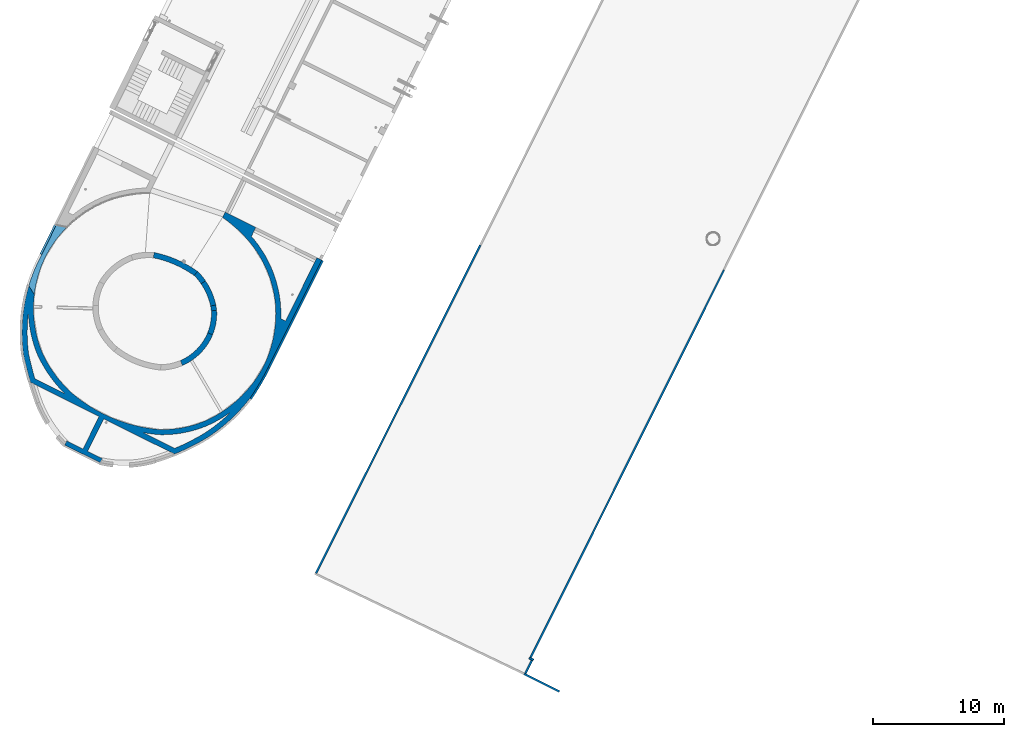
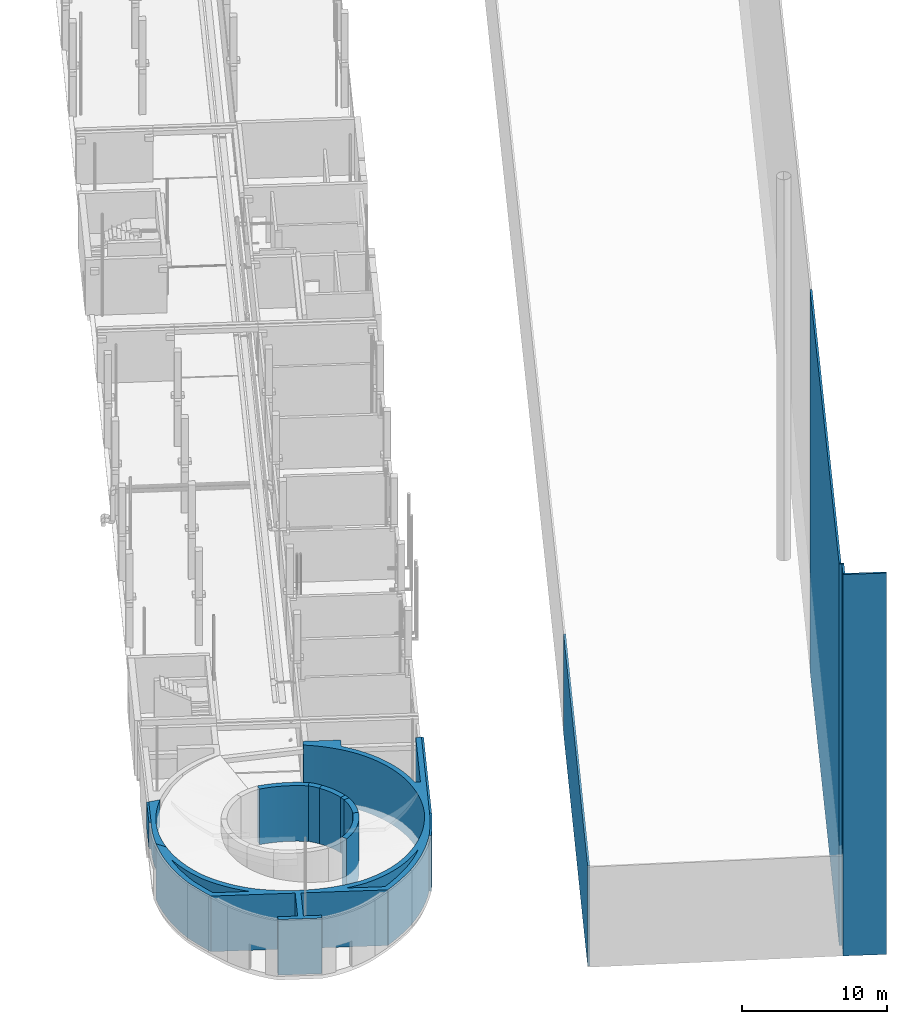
# One storey, part 7 of 91: 16 walls, 2 openings.
"""IFC2X3 building model written with IfcOpenShell, lengths in metres."""

from ifc_helpers import new_model, entity, si_unit, converted_unit, derived_unit, direction, frame, frame_2d, origin, place, context, subcontext, project, spatial, polyline, circle_curve, parameter, trimmed, segment, composite_curve, rectangle, outline, extrude, clip, bounded_halfspace, material, layer, layer_set, layer_usage, type_object, element, save


model = new_model("IFC2X3")

# Units and contexts
model_context = context("Model", 3, precision=1e-05, world=origin(), true_north=direction((0.894925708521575, 0.446215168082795)))
context_of_model = context(None, 3, precision=1e-05, world=origin(), true_north=direction((0.894925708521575, 0.446215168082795)))
body_context = subcontext(model_context, "Body", "Model", "MODEL_VIEW")
ifc_project = project(units=[si_unit("LENGTHUNIT", "METRE"), si_unit("AREAUNIT", "SQUARE_METRE"), si_unit("VOLUMEUNIT", "CUBIC_METRE"), converted_unit("PLANEANGLEUNIT", "DEGREE", entity("IfcRatioMeasure", 0.0174532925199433), si_unit("PLANEANGLEUNIT", "RADIAN"), dimensions=[0, 0, 0, 0, 0, 0, 0]), si_unit("MASSUNIT", "GRAM", prefix="KILO"), si_unit("TIMEUNIT", "SECOND"), si_unit("FREQUENCYUNIT", "HERTZ"), si_unit("THERMODYNAMICTEMPERATUREUNIT", "DEGREE_CELSIUS"), derived_unit("THERMALTRANSMITTANCEUNIT", [(si_unit("MASSUNIT", "GRAM", prefix="KILO"), 1), (si_unit("THERMODYNAMICTEMPERATUREUNIT", "KELVIN"), -1), (si_unit("TIMEUNIT", "SECOND"), -3)]), derived_unit("VOLUMETRICFLOWRATEUNIT", [(si_unit("LENGTHUNIT", "METRE"), 3), (si_unit("TIMEUNIT", "SECOND"), -1)]), si_unit("ELECTRICCURRENTUNIT", "AMPERE"), si_unit("ELECTRICVOLTAGEUNIT", "VOLT"), si_unit("POWERUNIT", "WATT"), si_unit("FORCEUNIT", "NEWTON", prefix="KILO"), si_unit("ILLUMINANCEUNIT", "LUX"), si_unit("LUMINOUSFLUXUNIT", "LUMEN"), si_unit("LUMINOUSINTENSITYUNIT", "CANDELA"), si_unit("PRESSUREUNIT", "PASCAL")], contexts=[model_context, context_of_model])

# Site, building, storey
site_placement = place(None, frame((218.228324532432, 584.720189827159, 0.0), z_axis=(0.0, 0.0, 1.0), x_axis=(0.446215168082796, 0.894925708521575, 0.0)))
site = spatial("IfcSite", under=ifc_project, at=site_placement, Name="Default", CompositionType="ELEMENT")
building_placement = place(site_placement, origin())
building = spatial("IfcBuilding", under=site, at=building_placement, CompositionType="ELEMENT")
storey_placement = place(building_placement, origin())
storey = spatial("IfcBuildingStorey", under=building, at=storey_placement, Name="0 - Piano Terra", CompositionType="ELEMENT", Elevation=0.0)

# Walls
ifc_material_1 = material(Name="Intonaco - Bianco")
ifc_layer_1 = layer(ifc_material_1, 0.01)
ifc_material_2 = material(Name="Default - Calcestruzzo")
ifc_layer_2 = layer(ifc_material_2, 0.4)
ifc_layer_set_1 = layer_set([ifc_layer_1, ifc_layer_2], Name="Muro di base:Setto CA intonacato int - 41 cm")
ifc_layer_usage_1 = layer_usage(ifc_layer_set_1, "AXIS2", "POSITIVE", -0.205)
wall_type_1 = type_object("IfcWallType", Name="Muro di base:Setto CA intonacato int - 41 cm", PredefinedType="STANDARD", material=ifc_layer_set_1)
wall_1_placement = place(storey_placement, frame((-69.0955108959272, -1.58090963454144, 0.0), z_axis=(0.0, 0.0, 1.0), x_axis=(0.987965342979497, -0.154675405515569, 0.0)))
element("IfcWallStandardCase", 1, at=wall_1_placement, inside=storey, type_object=wall_type_1, material=ifc_layer_usage_1, Name="Muro di base:Setto CA intonacato int - 41 cm", ObjectType="Muro di base:Setto CA intonacato int - 41 cm", context=body_context, shape_type="SweptSolid", body=[
    extrude(outline(composite_curve([segment(trimmed(circle_curve(frame_2d((-7.83321910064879, -3.45390609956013), x_axis=(1.0, 0.0)), 8.7658871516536), [parameter(0.0480917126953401)], [parameter(23.7941509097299)], True, "PARAMETER"), True, "CONTINUOUS"), segment(polyline([(0.187575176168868, 0.0827076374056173), (-0.178182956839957, -0.10408942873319)]), True, "CONTINUOUS"), segment(trimmed(circle_curve(frame_2d((-7.83321910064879, -3.45390609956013), x_axis=(1.0, 0.0)), 8.3558871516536), [parameter(0.232952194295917)], [parameter(23.6340161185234)], True, "PARAMETER"), False, "CONTINUOUS"), segment(polyline([(0.522598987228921, -3.41993297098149), (0.932664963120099, -3.4465483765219)]), True, "CONTINUOUS")], self_intersect=False)), origin(), (0.0, 0.0, 1.0), 4.69),
])
ifc_layer_usage_2 = layer_usage(ifc_layer_set_1, "AXIS2", "POSITIVE", -0.205)
wall_2_placement = place(storey_placement, frame((-69.2599548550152, -5.88475513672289, 0.0), z_axis=(0.0, 0.0, 1.0), x_axis=(0.621195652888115, -0.78365551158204, 0.0)))
element("IfcWallStandardCase", 2, at=wall_2_placement, inside=storey, type_object=wall_type_1, material=ifc_layer_usage_2, Name="Muro di base:Setto CA intonacato int - 41 cm", ObjectType="Muro di base:Setto CA intonacato int - 41 cm", context=body_context, shape_type="SweptSolid", body=[
    extrude(outline(composite_curve([segment(trimmed(circle_curve(frame_2d((-4.51230855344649, -1.88864638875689), x_axis=(1.0, 0.0)), 5.09661667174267), [parameter(359.999999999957)], [parameter(22.6184181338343)], True, "PARAMETER"), True, "CONTINUOUS"), segment(polyline([(0.192310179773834, 0.0714719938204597), (-0.189103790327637, -0.0791502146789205)]), True, "CONTINUOUS"), segment(trimmed(circle_curve(frame_2d((-4.51230855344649, -1.88864638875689), x_axis=(1.0, 0.0)), 4.68661667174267), [parameter(0.0199811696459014)], [parameter(22.711960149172)], True, "PARAMETER"), False, "CONTINUOUS"), segment(polyline([(0.174307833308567, -1.88701199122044), (0.584308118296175, -1.88864638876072)]), True, "CONTINUOUS")], self_intersect=False)), origin(), (0.0, 0.0, 1.0), 4.69),
])
ifc_layer_usage_3 = layer_usage(ifc_layer_set_1, "AXIS2", "POSITIVE", -0.205)
wall_3_placement = place(storey_placement, frame((-68.9039863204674, -5.07290830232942, 0.0), z_axis=(0.0, 0.0, 1.0), x_axis=(0.856291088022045, -0.516493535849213, 0.0)))
element("IfcWallStandardCase", 3, at=wall_3_placement, inside=storey, type_object=wall_type_1, material=ifc_layer_usage_3, Name="Muro di base:Setto CA intonacato int - 41 cm", ObjectType="Muro di base:Setto CA intonacato int - 41 cm", context=body_context, shape_type="SweptSolid", body=[
    extrude(outline(composite_curve([segment(trimmed(circle_curve(frame_2d((-3.31517749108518, -0.879432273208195), x_axis=(1.0, 0.0)), 3.63484007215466), [parameter(6.41199823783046e-12)], [parameter(14.8569253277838)], True, "PARAMETER"), True, "CONTINUOUS"), segment(polyline([(0.198146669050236, 0.0525632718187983), (-0.191579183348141, -0.077729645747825)]), True, "CONTINUOUS"), segment(trimmed(circle_curve(frame_2d((-3.31517749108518, -0.879432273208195), x_axis=(1.0, 0.0)), 3.22484007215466), [parameter(359.86646942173)], [parameter(14.3948183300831)], True, "PARAMETER"), False, "CONTINUOUS"), segment(polyline([(-0.0903461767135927, -0.886947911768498), (0.319662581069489, -0.87943227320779)]), True, "CONTINUOUS")], self_intersect=False)), origin(), (0.0, 0.0, 1.0), 4.69),
])
ifc_layer_usage_4 = layer_usage(ifc_layer_set_1, "AXIS2", "POSITIVE", -0.205)
wall_4_placement = place(storey_placement, frame((-70.5030947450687, -7.35421167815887, 0.0), z_axis=(0.0, 0.0, 1.0), x_axis=(0.546021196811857, -0.837771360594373, 0.0)))
element("IfcWallStandardCase", 4, at=wall_4_placement, inside=storey, type_object=wall_type_1, material=ifc_layer_usage_4, Name="Muro di base:Setto CA intonacato int - 41 cm", ObjectType="Muro di base:Setto CA intonacato int - 41 cm", context=body_context, shape_type="SweptSolid", body=[
    extrude(outline(composite_curve([segment(trimmed(circle_curve(frame_2d((-4.6797065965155, -0.397294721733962), x_axis=(1.0, 0.0)), 4.90154095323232), [parameter(359.999999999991)], [parameter(4.85262404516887)], True, "PARAMETER"), True, "CONTINUOUS"), segment(polyline([(0.204265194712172, 0.0173415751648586), (-0.20412747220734, -0.0189673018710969)]), True, "CONTINUOUS"), segment(trimmed(circle_curve(frame_2d((-4.6797065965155, -0.397294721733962), x_axis=(1.0, 0.0)), 4.49154095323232), [parameter(0.151241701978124)], [parameter(4.83181138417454)], True, "PARAMETER"), False, "CONTINUOUS"), segment(polyline([(-0.188181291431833, -0.385438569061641), (0.221834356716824, -0.397294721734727)]), True, "CONTINUOUS")], self_intersect=False)), origin(), (0.0, 0.0, 1.0), 4.69),
])
ifc_layer_usage_5 = layer_usage(ifc_layer_set_1, "AXIS2", "POSITIVE", -0.205)
wall_5_placement = place(storey_placement, frame((-70.816668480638, -7.57908508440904, 0.0), z_axis=(0.0, 0.0, 1.0), x_axis=(0.075941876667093, -0.997112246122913, 0.0)))
element("IfcWallStandardCase", 5, at=wall_5_placement, inside=storey, type_object=wall_type_1, material=ifc_layer_usage_5, Name="Muro di base:Setto CA intonacato int - 41 cm", ObjectType="Muro di base:Setto CA intonacato int - 41 cm", context=body_context, shape_type="SweptSolid", body=[
    extrude(outline(composite_curve([segment(trimmed(circle_curve(frame_2d((-3.6742657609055, -1.74762819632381), x_axis=(1.0, 0.0)), 4.27371394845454), [parameter(359.999999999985)], [parameter(25.4376350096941)], True, "PARAMETER"), True, "CONTINUOUS"), segment(polyline([(0.185125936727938, 0.08805332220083), (-0.180083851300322, -0.0986957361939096)]), True, "CONTINUOUS"), segment(trimmed(circle_curve(frame_2d((-3.6742657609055, -1.74762819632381), x_axis=(1.0, 0.0)), 3.86371394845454), [parameter(0.010228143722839)], [parameter(25.2630003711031)], True, "PARAMETER"), False, "CONTINUOUS"), segment(polyline([(0.189448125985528, -1.74693846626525), (0.599448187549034, -1.74762819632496)]), True, "CONTINUOUS")], self_intersect=False)), origin(), (0.0, 0.0, 1.0), 4.69),
])
ifc_layer_usage_6 = layer_usage(ifc_layer_set_1, "AXIS2", "POSITIVE", -0.205)
wall_6_placement = place(storey_placement, frame((-72.5286066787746, -8.10506112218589, 0.0), z_axis=(0.0, 0.0, 1.0), x_axis=(-0.644290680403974, -0.764780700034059, 0.0)))
element("IfcWallStandardCase", 6, at=wall_6_placement, inside=storey, type_object=wall_type_1, material=ifc_layer_usage_6, Name="Muro di base:Setto CA intonacato int - 41 cm", ObjectType="Muro di base:Setto CA intonacato int - 41 cm", context=body_context, shape_type="SweptSolid", body=[
    extrude(outline(composite_curve([segment(trimmed(circle_curve(frame_2d((-2.96750184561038, -2.89333629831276), x_axis=(1.0, 0.0)), 4.34957019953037), [parameter(3.46044349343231e-12)], [parameter(44.274993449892)], True, "PARAMETER"), True, "CONTINUOUS"), segment(polyline([(0.146779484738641, 0.143111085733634), (-0.14629758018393, -0.143605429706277)]), True, "CONTINUOUS"), segment(trimmed(circle_curve(frame_2d((-2.96750184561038, -2.89333629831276), x_axis=(1.0, 0.0)), 3.93957019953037), [parameter(0.0104167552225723)], [parameter(44.2649529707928)], True, "PARAMETER"), False, "CONTINUOUS"), segment(polyline([(0.972068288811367, -2.89262005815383), (1.38206835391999, -2.8933362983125)]), True, "CONTINUOUS")], self_intersect=False)), origin(), (0.0, 0.0, 1.0), 4.69),
])
ifc_material_3 = material(Name="Alluminio")
ifc_layer_3 = layer(ifc_material_3, 0.15)
ifc_layer_set_2 = layer_set([ifc_layer_3], Name="Muro di base:Rivestimento 15 cm")
ifc_layer_usage_7 = layer_usage(ifc_layer_set_2, "AXIS2", "POSITIVE", -0.075)
wall_type_2 = type_object("IfcWallType", Name="Muro di base:Rivestimento 15 cm", PredefinedType="STANDARD", material=ifc_layer_set_2)
wall_7_placement = place(storey_placement, frame((-72.8723202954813, -13.2760847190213, 0.0)))
element("IfcWallStandardCase", 7, at=wall_7_placement, inside=storey, type_object=wall_type_2, material=ifc_layer_usage_7, Name="Muro di base:Rivestimento 15 cm", ObjectType="Muro di base:Rivestimento 15 cm", context=body_context, shape_type="SweptSolid", body=[
    extrude(outline(composite_curve([segment(trimmed(circle_curve(frame_2d((0.0445455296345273, 19.4710955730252), x_axis=(1.0, 0.0)), 19.5461465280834), [parameter(261.823824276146)], [parameter(269.868920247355)], True, "PARAMETER"), True, "CONTINUOUS"), segment(polyline([(-0.000171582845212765, -0.0749998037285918), (3.3068077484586e-07, 0.0750001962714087)]), True, "CONTINUOUS"), segment(trimmed(circle_curve(frame_2d((0.0445455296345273, 19.4710955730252), x_axis=(1.0, 0.0)), 19.3961465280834), [parameter(261.833968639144)], [parameter(269.868414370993)], True, "PARAMETER"), False, "CONTINUOUS"), segment(polyline([(-2.7105239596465, 0.271614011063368), (-2.735255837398, 0.123626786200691)]), True, "CONTINUOUS")], self_intersect=False)), origin(), (0.0, 0.0, 1.0), 4.69),
])
ifc_layer_usage_8 = layer_usage(ifc_layer_set_2, "AXIS2", "NEGATIVE", 0.075)
wall_8_placement = place(storey_placement, frame((-63.7294493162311, -13.2760845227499, 0.0), z_axis=(0.0, 0.0, 1.0), x_axis=(-1.0, 0.0, 0.0)))
element("IfcWallStandardCase", 8, at=wall_8_placement, inside=storey, type_object=wall_type_2, material=ifc_layer_usage_8, Name="Muro di base:Rivestimento 15 cm", ObjectType="Muro di base:Rivestimento 15 cm", context=body_context, shape_type="SweptSolid", body=[
    extrude(outline(polyline([(9.14287064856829, -0.0750000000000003), (9.14304256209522, 0.0750000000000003), (0.0, 0.0750000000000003), (0.0, -0.0750000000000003), (9.14287064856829, -0.0750000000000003)])), origin(), (0.0, 0.0, 1.0), 4.69),
])
ifc_layer_usage_9 = layer_usage(ifc_layer_set_2, "AXIS2", "NEGATIVE", 0.075)
wall_9_placement = place(storey_placement, frame((-72.8683538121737, 6.13234385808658, 2.47), z_axis=(0.0, 0.0, 1.0), x_axis=(0.999986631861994, 0.00517069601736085, 0.0)))
element("IfcWallStandardCase", 9, at=wall_9_placement, inside=storey, type_object=wall_type_2, material=ifc_layer_usage_9, Name="Muro di base:Rivestimento 15 cm", ObjectType="Muro di base:Rivestimento 15 cm", context=body_context, shape_type="SweptSolid", body=[
    extrude(outline(polyline([(2.49269829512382, -0.0749999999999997), (2.49269829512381, 0.0750000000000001), (2.47799551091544, 0.0750000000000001), (2.46765033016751, 0.0749999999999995), (0.00289340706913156, 0.0749999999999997), (0.0, -0.0749999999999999), (2.49269829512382, -0.0749999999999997)])), origin(), (0.0, 0.0, 1.0), 2.22),
])
ifc_layer_usage_10 = layer_usage(ifc_layer_set_2, "AXIS2", "NEGATIVE", 0.075)
wall_10_placement = place(storey_placement, frame((-85.2459555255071, -23.4553072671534, 0.0), z_axis=(0.0, 0.0, 1.0), x_axis=(0.99999860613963, -0.00166964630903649, 0.0)))
element("IfcWallStandardCase", 10, at=wall_10_placement, inside=storey, type_object=wall_type_2, material=ifc_layer_usage_10, Name="Muro di base:Rivestimento 15 cm", ObjectType="Muro di base:Rivestimento 15 cm", context=body_context, shape_type="SweptSolid", body=[
    extrude(outline(polyline([(27.9315577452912, -0.0750000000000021), (27.9315577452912, 0.0749999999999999), (0.0, 0.0749999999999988), (0.00266062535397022, -0.0750000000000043), (27.9315577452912, -0.0750000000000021)])), origin(), (0.0, 0.0, 1.0), 8.45),
])
ifc_material_4 = material(Name="Default - Finestre")
ifc_layer_4 = layer(ifc_material_4, 0.15)
ifc_layer_set_3 = layer_set([ifc_layer_4], Name="Muro di base:Rivestimento pannelli 5 cm")
ifc_layer_usage_11 = layer_usage(ifc_layer_set_3, "AXIS2", "NEGATIVE", 0.075)
wall_type_3 = type_object("IfcWallType", Name="Muro di base:Rivestimento pannelli 5 cm", PredefinedType="STANDARD", material=ifc_layer_set_3)
wall_11_placement = place(storey_placement, frame((-85.037590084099, -44.0524462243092, 0.0), z_axis=(0.0, 0.0, 1.0), x_axis=(0.000228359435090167, 0.999999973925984, 0.0)))
element("IfcWallStandardCase", 11, at=wall_11_placement, inside=storey, type_object=wall_type_3, material=ifc_layer_usage_11, Name="Muro di base:Rivestimento pannelli 5 cm", ObjectType="Muro di base:Rivestimento pannelli 5 cm", context=body_context, shape_type="Clipping", body=[
    clip(extrude(outline(polyline([(3.00122210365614, -0.0750000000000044), (3.0, 0.0749999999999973), (0.0, 0.0749999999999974), (0.0, -0.0749999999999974), (2.85000000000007, -0.0749999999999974), (3.0, -0.0749999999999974), (3.00122210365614, -0.0750000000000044)])), origin(), (0.0, 0.0, 1.0), 32.15), bounded_halfspace(frame((3.0, -0.0749999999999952, 8.45), z_axis=(-1.0, 0.0, 0.0), x_axis=(0.0, -1.0, 0.0)), True, frame((3.0, -0.0749999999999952, 8.45), z_axis=(-1.0, 0.0, 0.0), x_axis=(0.0, -1.0, 0.0)), polyline([(0.0, 0.0), (0.0, 0.00499999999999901), (-0.149999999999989, 0.00499999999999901), (-0.149999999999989, 0.0), (0.0, 0.0)]))),
])
ifc_layer_usage_12 = layer_usage(ifc_layer_set_3, "AXIS2", "NEGATIVE", 0.075)
wall_12_placement = place(storey_placement, frame((-84.9619221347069, -41.1274634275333, 0.0), z_axis=(0.0, 0.0, 1.0), x_axis=(0.999999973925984, -0.000228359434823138, 0.0)))
element("IfcWallStandardCase", 12, at=wall_12_placement, inside=storey, type_object=wall_type_3, material=ifc_layer_usage_12, Name="Muro di base:Rivestimento pannelli 5 cm", ObjectType="Muro di base:Rivestimento pannelli 5 cm", context=body_context, shape_type="SweptSolid", body=[
    extrude(rectangle(XDim=1.11131125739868, YDim=0.149999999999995, at=frame_2d((0.555655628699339, -1.62370117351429e-15), x_axis=(-1.0, 0.0))), origin(), (0.0, 0.0, 1.0), 32.15),
])
ifc_layer_usage_13 = layer_usage(ifc_layer_set_3, "AXIS2", "NEGATIVE", 0.075)
wall_13_placement = place(storey_placement, frame((-83.7756280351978, -41.202734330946, 0.0), z_axis=(0.0, 0.0, 1.0), x_axis=(0.000228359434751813, 0.999999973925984, 0.0)))
element("IfcWallStandardCase", 13, at=wall_13_placement, inside=storey, type_object=wall_type_3, material=ifc_layer_usage_13, Name="Muro di base:Rivestimento pannelli 5 cm", ObjectType="Muro di base:Rivestimento pannelli 5 cm", context=body_context, shape_type="SweptSolid", body=[
    extrude(rectangle(XDim=0.337749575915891, YDim=0.149999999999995, at=frame_2d((0.168874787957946, 6.10622663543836e-16), x_axis=(-1.0, 0.0))), origin(), (0.0, 0.0, 1.0), 32.15),
])
ifc_layer_usage_14 = layer_usage(ifc_layer_set_3, "AXIS2", "NEGATIVE", 0.075)
wall_14_placement = place(storey_placement, frame((-83.7005680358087, -40.9400018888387, 0.0), z_axis=(0.0, 0.0, 1.0), x_axis=(0.999999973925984, -0.00022835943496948, 0.0)))
element("IfcWallStandardCase", 14, at=wall_14_placement, inside=storey, type_object=wall_type_3, material=ifc_layer_usage_14, Name="Muro di base:Rivestimento pannelli 5 cm", ObjectType="Muro di base:Rivestimento pannelli 5 cm", context=body_context, shape_type="SweptSolid", body=[
    extrude(rectangle(XDim=32.9659207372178, YDim=0.149999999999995, at=frame_2d((16.4829603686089, 3.95516952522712e-16), x_axis=(-1.0, 0.0))), origin(), (0.0, 0.0, 1.0), 32.15),
])

# Wall, openings
ifc_material_5 = material(Name="Calcestruzzo, gettato in opera")
wall_type_4 = type_object("IfcWallType", Name="Setto Sx1:Setto Sx", PredefinedType="NOTDEFINED", material=ifc_material_5)
wall_15_placement = place(storey_placement, frame((-85.0499797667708, -13.2010845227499, 0.0)))
wall_15 = element("IfcWall", 15, at=wall_15_placement, inside=storey, type_object=wall_type_4, material=ifc_material_5, Name="Setto Sx1:Setto Sx", ObjectType="Setto Sx1:Setto Sx", context=body_context, shape_type="SweptSolid", body=[
    extrude(outline(composite_curve([segment(polyline([(-2.05912661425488, -7.95488151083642), (-2.05622430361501, -7.95488151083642)]), True, "CONTINUOUS"), segment(polyline([(-2.05622430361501, -7.95488151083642), (-2.05332112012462, -7.95488079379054)]), True, "CONTINUOUS"), segment(polyline([(-2.05332112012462, -7.95488079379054), (-1.67333220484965, -7.94894528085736)]), True, "CONTINUOUS"), segment(polyline([(-1.67333220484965, -7.94894528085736), (-1.29369950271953, -7.93140992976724)]), True, "CONTINUOUS"), segment(polyline([(-1.29369950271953, -7.93140992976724), (-0.914779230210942, -7.90229113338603)]), True, "CONTINUOUS"), segment(polyline([(-0.914779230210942, -7.90229113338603), (-0.536924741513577, -7.86161604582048)]), True, "CONTINUOUS"), segment(polyline([(-0.536924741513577, -7.86161604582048), (-0.160488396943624, -7.80942259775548)]), True, "CONTINUOUS"), segment(polyline([(-0.160488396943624, -7.80942259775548), (0.214178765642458, -7.74575946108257)]), True, "CONTINUOUS"), segment(polyline([(0.214178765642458, -7.74575946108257), (0.586727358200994, -7.67068600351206)]), True, "CONTINUOUS"), segment(polyline([(0.586727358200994, -7.67068600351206), (0.95680996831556, -7.58427223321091)]), True, "CONTINUOUS"), segment(polyline([(0.95680996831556, -7.58427223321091), (1.32408148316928, -7.48659873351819)]), True, "CONTINUOUS"), segment(polyline([(1.32408148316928, -7.48659873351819), (1.68819941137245, -7.37775658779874)]), True, "CONTINUOUS"), segment(polyline([(1.68819941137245, -7.37775658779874), (2.04882420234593, -7.25784729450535)]), True, "CONTINUOUS"), segment(polyline([(2.04882420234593, -7.25784729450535), (2.40561956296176, -7.12698267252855)]), True, "CONTINUOUS"), segment(polyline([(2.40561956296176, -7.12698267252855), (2.75825277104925, -6.98528475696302)]), True, "CONTINUOUS"), segment(polyline([(2.75825277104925, -6.98528475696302), (3.10639498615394, -6.8328856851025)]), True, "CONTINUOUS"), segment(trimmed(circle_curve(frame_2d((-11.1678824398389, 19.1239378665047), x_axis=(-0.985125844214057, 0.171834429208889)), 29.6228237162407), [parameter(128.701939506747)], [parameter(132.84553799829)], True, "PARAMETER"), True, "CONTINUOUS"), segment(polyline([(4.94463026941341, -5.73362877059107), (5.94794652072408, 0.0183778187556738)]), True, "CONTINUOUS"), segment(polyline([(5.94794652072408, 0.0183778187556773), (8.66689385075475, -0.455885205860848)]), True, "CONTINUOUS"), segment(polyline([(8.66689385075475, -0.455885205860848), (8.42976233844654, -1.815358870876)]), True, "CONTINUOUS"), segment(polyline([(8.42976233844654, -1.815358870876), (8.77455638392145, -1.8755009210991)]), True, "CONTINUOUS"), segment(polyline([(8.77455638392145, -1.8755009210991), (9.29521470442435, 1.10943038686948)]), True, "CONTINUOUS"), segment(polyline([(9.29521470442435, 1.10943038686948), (8.95042065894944, 1.16957243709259)]), True, "CONTINUOUS"), segment(polyline([(8.95042065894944, 1.16957243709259), (8.7356276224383, -0.0618348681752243)]), True, "CONTINUOUS"), segment(polyline([(8.7356276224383, -0.0618348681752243), (6.01668029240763, 0.412428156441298)]), True, "CONTINUOUS"), segment(polyline([(6.01668029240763, 0.412428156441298), (7.04930844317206, 6.33247970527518)]), True, "CONTINUOUS"), segment(trimmed(circle_curve(frame_2d((-6.25701614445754, -4.25279820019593), x_axis=(-0.985125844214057, 0.171834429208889)), 17.0031286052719), [parameter(228.396997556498)], [parameter(237.906736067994)], True, "PARAMETER"), True, "CONTINUOUS"), segment(trimmed(circle_curve(frame_2d((-3.15067908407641, -1.27058883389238), x_axis=(-0.985125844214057, 0.171834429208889)), 12.7123127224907), [parameter(239.321609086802)], [parameter(259.18799196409)], True, "PARAMETER"), True, "CONTINUOUS"), segment(trimmed(circle_curve(frame_2d((-4.66906902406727, -7.81993145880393), x_axis=(-0.985125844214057, 0.171834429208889)), 19.3961465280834), [parameter(261.833968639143)], [parameter(269.868414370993)], True, "PARAMETER"), True, "CONTINUOUS"), segment(polyline([(-1.29226941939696, 11.2800089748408), (-10.2991475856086, 12.8510689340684)]), True, "CONTINUOUS"), segment(polyline([(-10.2991475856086, 12.8510689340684), (-10.3678813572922, 12.4570185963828)]), True, "CONTINUOUS"), segment(polyline([(-10.3678813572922, 12.4570185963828), (-5.07775557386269, 11.5342677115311)]), True, "CONTINUOUS"), segment(polyline([(-5.07775557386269, 11.5342677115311), (-5.14603357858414, 11.14283028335)]), True, "CONTINUOUS"), segment(trimmed(circle_curve(frame_2d((-2.80283685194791, 1.92566440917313), x_axis=(-0.985125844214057, 0.171834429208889)), 9.51034792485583), [parameter(294.158127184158)], [parameter(299.908782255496)], True, "PARAMETER"), True, "CONTINUOUS"), segment(trimmed(circle_curve(frame_2d((-2.84094474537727, 2.40508665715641), x_axis=(-0.985125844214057, 0.171834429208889)), 9.04774608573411), [parameter(300.721142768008)], [parameter(337.797140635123)], True, "PARAMETER"), True, "CONTINUOUS"), segment(polyline([(-10.5057108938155, 7.21269199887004), (-11.2597029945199, 7.34421002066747)]), True, "CONTINUOUS"), segment(polyline([(-11.2597029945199, 7.34421002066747), (-11.7081908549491, 4.77303156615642)]), True, "CONTINUOUS"), segment(polyline([(-11.7081908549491, 4.77303156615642), (-11.2612868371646, 4.69507858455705)]), True, "CONTINUOUS"), segment(trimmed(circle_curve(frame_2d((-1.39522932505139, 1.44859875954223), x_axis=(-0.985125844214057, 0.171834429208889)), 10.3864682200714), [parameter(340.282816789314)], [parameter(351.680422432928)], True, "PARAMETER"), False, "CONTINUOUS"), segment(trimmed(circle_curve(frame_2d((-2.84094474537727, 2.40508665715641), x_axis=(-0.985125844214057, 0.171834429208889)), 8.65774608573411), [parameter(300.739430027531)], [parameter(341.058517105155)], True, "PARAMETER"), False, "CONTINUOUS"), segment(trimmed(circle_curve(frame_2d((-2.80283685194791, 1.92566440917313), x_axis=(-0.985125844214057, 0.171834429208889)), 9.12034792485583), [parameter(271.794499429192)], [parameter(299.89140355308)], True, "PARAMETER"), False, "CONTINUOUS"), segment(trimmed(circle_curve(frame_2d((-3.04583593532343, 1.88839171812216), x_axis=(-0.985125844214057, 0.171834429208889)), 9.19449952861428), [parameter(230.13814973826)], [parameter(270.327916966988)], True, "PARAMETER"), False, "CONTINUOUS"), segment(trimmed(circle_curve(frame_2d((-2.55945903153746, 2.48801541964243), x_axis=(-0.985125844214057, 0.171834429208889)), 8.4370855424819), [parameter(205.299039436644)], [parameter(229.163761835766)], True, "PARAMETER"), False, "CONTINUOUS"), segment(trimmed(circle_curve(frame_2d((-5.93249095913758, 2.27877111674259), x_axis=(-0.985125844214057, 0.171834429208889)), 11.7650233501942), [parameter(165.274958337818)], [parameter(201.916020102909)], True, "PARAMETER"), False, "CONTINUOUS"), segment(trimmed(circle_curve(frame_2d((-3.84512393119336, 1.72844848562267), x_axis=(-0.985125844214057, 0.171834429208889)), 9.64522280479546), [parameter(140.961029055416)], [parameter(163.080761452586)], True, "PARAMETER"), False, "CONTINUOUS"), segment(trimmed(circle_curve(frame_2d((-3.05279843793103, 1.3974643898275), x_axis=(-0.985125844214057, 0.171834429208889)), 8.88330053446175), [parameter(109.78037239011)], [parameter(138.509755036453)], True, "PARAMETER"), False, "CONTINUOUS"), segment(polyline([(-1.52765743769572, -7.35393397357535), (-2.04696383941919, -7.94112871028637)]), True, "CONTINUOUS"), segment(polyline([(-2.04696383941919, -7.94112871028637), (-2.0591266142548, -7.95488151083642)]), True, "CONTINUOUS")], self_intersect=False)), frame((8.96631789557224, 10.890171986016, 0.0), z_axis=(0.0, 0.0, 1.0), x_axis=(-0.985125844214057, -0.171834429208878, 0.0)), (0.0, 0.0, 1.0), 4.69),
])
opening_1_placement = place(storey_placement, frame((-85.0499797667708, -13.2010845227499, 0.0)))
element("IfcOpeningElement", 16, at=opening_1_placement, cuts=wall_15, Name="Setto Sx1:Setto Sx:1", ObjectType="Opening", context=body_context, shape_type="SweptSolid", body=[
    extrude(outline(composite_curve([segment(polyline([(0.411589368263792, -1.48777174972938), (2.93521054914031, -1.48777174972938)]), True, "CONTINUOUS"), segment(trimmed(circle_curve(frame_2d((6.07701845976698, 8.05348356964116), x_axis=(0.0, 1.0)), 10.0452232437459), [parameter(140.912308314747)], [parameter(161.77397646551)], True, "PARAMETER"), False, "CONTINUOUS"), segment(trimmed(circle_curve(frame_2d((5.88710626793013, 7.21606893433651), x_axis=(0.0, 1.0)), 9.28330072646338), [parameter(118.781791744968)], [parameter(138.56267217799)], True, "PARAMETER"), False, "CONTINUOUS"), segment(trimmed(circle_curve(frame_2d((9.1047649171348, 6.76717389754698), x_axis=(0.0, 1.0)), 12.0450089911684), [parameter(109.500389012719)], [parameter(124.339784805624)], True, "PARAMETER"), True, "CONTINUOUS"), segment(trimmed(circle_curve(frame_2d((21.9554625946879, 18.2564667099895), x_axis=(0.0, 1.0)), 29.2228237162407), [parameter(128.731462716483)], [parameter(132.504214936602)], True, "PARAMETER"), True, "CONTINUOUS")], self_intersect=False)), frame((4.99777174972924, 15.9251758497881, 0.0), z_axis=(0.0, 0.0, 1.0), x_axis=(0.0, -1.0, 0.0)), (0.0, 0.0, 1.0), 4.69),
])
opening_2_placement = place(storey_placement, frame((-85.0499797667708, -13.2010845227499, 0.0)))
element("IfcOpeningElement", 17, at=opening_2_placement, cuts=wall_15, Name="Setto Sx1:Setto Sx:2", ObjectType="Opening", context=body_context, shape_type="SweptSolid", body=[
    extrude(outline(composite_curve([segment(trimmed(circle_curve(frame_2d((7.19871337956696, -6.16244036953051), x_axis=(1.0, 0.0)), 9.59449952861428), [parameter(117.226421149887)], [parameter(129.882092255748)], True, "PARAMETER"), False, "CONTINUOUS"), segment(trimmed(circle_curve(frame_2d((6.75917545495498, -9.29244941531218), x_axis=(1.0, 0.0)), 12.3123127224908), [parameter(108.712455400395)], [parameter(120.655453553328)], True, "PARAMETER"), True, "CONTINUOUS"), segment(trimmed(circle_curve(frame_2d((9.30686212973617, -12.7640765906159), x_axis=(1.0, 0.0)), 16.6031286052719), [parameter(122.110343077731)], [parameter(130.985628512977)], True, "PARAMETER"), True, "CONTINUOUS"), segment(polyline([(-1.58262692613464, -0.230804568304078), (-1.58262692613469, -2.91507459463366)]), True, "CONTINUOUS"), segment(trimmed(circle_curve(frame_2d((10.1095124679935, -6.27389425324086), x_axis=(1.0, 0.0)), 12.1650233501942), [parameter(158.028540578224)], [parameter(163.972144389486)], True, "PARAMETER"), False, "CONTINUOUS"), segment(trimmed(circle_curve(frame_2d((6.82260704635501, -5.4881592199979), x_axis=(1.0, 0.0)), 8.83708545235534), [parameter(130.814110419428)], [parameter(154.777814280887)], True, "PARAMETER"), False, "CONTINUOUS")], self_intersect=False)), frame((5.09262692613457, 3.39080761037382, 0.0), z_axis=(0.0, 0.0, -1.0), x_axis=(1.0, 0.0, 0.0)), (0.0, 0.0, -1.0), 4.69),
])

# Wall
wall_type_5 = type_object("IfcWallType", Name="Setti 2:Setti 2", PredefinedType="NOTDEFINED", material=ifc_material_5)
wall_16_placement = place(storey_placement, frame((-75.8423860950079, 5.19614202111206, 2.47)))
element("IfcWall", 18, at=wall_16_placement, inside=storey, type_object=wall_type_5, material=ifc_material_5, Name="Setti 2:Setti 2", ObjectType="Setti 2:Setti 2", context=body_context, shape_type="SweptSolid", body=[
    extrude(outline(composite_curve([segment(polyline([(-2.57591120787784, -0.358716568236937), (-0.058164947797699, -0.358716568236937)]), True, "CONTINUOUS"), segment(trimmed(circle_curve(frame_2d((0.423210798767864, 12.0769790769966), x_axis=(-0.999986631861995, 0.00517069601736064)), 12.4450089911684), [parameter(88.0794937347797)], [parameter(99.8878128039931)], True, "PARAMETER"), True, "CONTINUOUS"), segment(polyline([(2.49684015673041, -0.194056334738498), (2.92066839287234, 0.487094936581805)]), True, "CONTINUOUS"), segment(trimmed(circle_curve(frame_2d((-0.0423161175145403, 8.86168454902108), x_axis=(-0.999986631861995, 0.00517069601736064)), 8.88330053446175), [parameter(90.6059649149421)], [parameter(109.78037239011)], True, "PARAMETER"), False, "CONTINUOUS"), segment(trimmed(circle_curve(frame_2d((0.0619677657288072, 8.90516592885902), x_axis=(-0.999986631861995, 0.00517069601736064)), 8.92682946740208), [parameter(71.670484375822)], [parameter(89.9351173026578)], True, "PARAMETER"), False, "CONTINUOUS"), segment(polyline([(-2.78913351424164, 0.445880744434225), (-2.57591120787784, -0.358716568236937)]), True, "CONTINUOUS")], self_intersect=False)), frame((2.91811072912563, 0.5021903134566, 0.0), z_axis=(0.0, 0.0, 1.0), x_axis=(-0.999986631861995, -0.00517069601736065, 0.0)), (0.0, 0.0, 1.0), 2.22),
])

save(model, "model.ifc")
